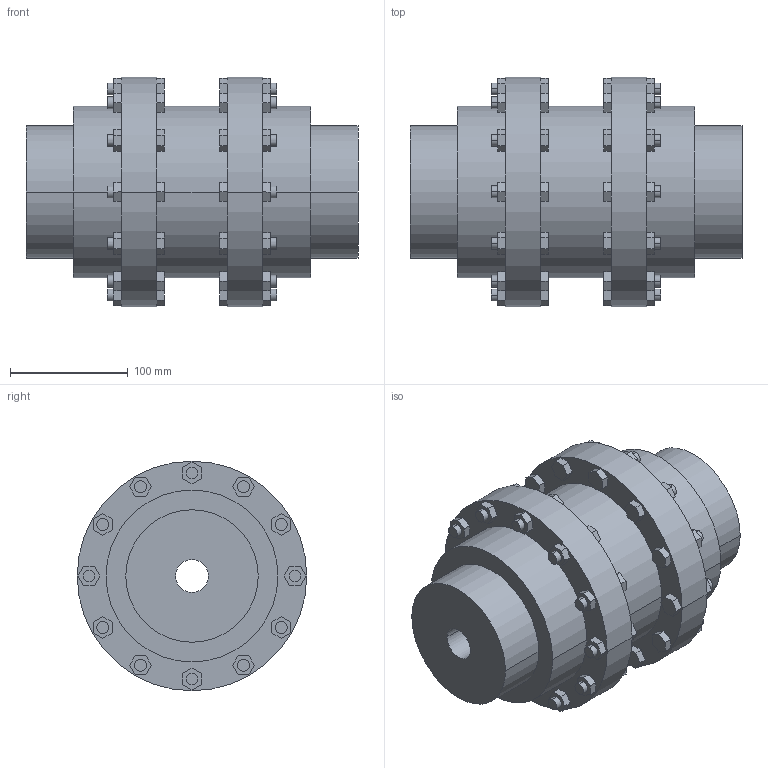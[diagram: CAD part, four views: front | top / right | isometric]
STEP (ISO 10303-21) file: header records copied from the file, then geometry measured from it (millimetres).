
FILE_DESCRIPTION((''),'2;1');
FILE_NAME('A19045700-0_ASM','2018-10-24T',('AB_Roschiwal'),('RENK AG'),'PRO/ENGINEER BY PARAMETRIC TECHNOLOGY CORPORATION, 2015440','PRO/ENGINEER BY PARAMETRIC TECHNOLOGY CORPORATION, 2015440','');
FILE_SCHEMA(('CONFIG_CONTROL_DESIGN'));
Length unit declared in the file: millimetre
Products named in the file (3): LBLK70_GEHAEUSE; LBLK70_NABE; A19045700-0_ASM
Assembly tree (3 placements, depth 2):
  A19045700-0_ASM
    LBLK70_GEHAEUSE
    LBLK70_NABE  x2
Bounding box: 282 x 195 x 195 mm (x, y, z)
Volume: 3500842 mm3; surface area: 412434.7 mm2
Topology: 3 solids, 3 shells, 456 faces, 1104 edges, 736 vertices
Faces by surface type: plane 376, cylinder 80
Entity records: 12972 total; most frequent: CARTESIAN_POINT 2250, ORIENTED_EDGE 2160, DIRECTION 2124, EDGE_CURVE 1080, VECTOR 936, LINE 936, VERTEX_POINT 720, AXIS2_PLACEMENT_3D 594
